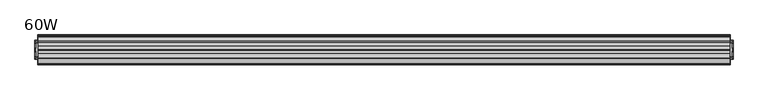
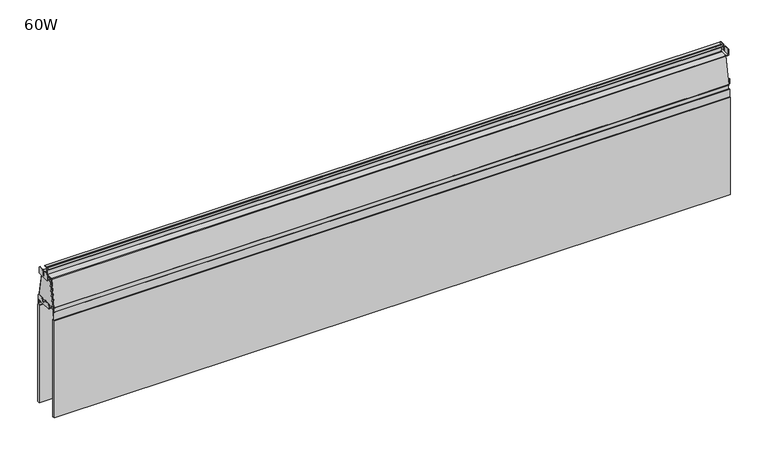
"""IFC4 building model written with IfcOpenShell, lengths in millimetres: furniture geometry, Steelcase Turnstone - Bivi - Accessories - High Sit Bracket with Modesty Panel : 60W."""

from ifc_helpers import new_model, si_unit, point, frame, frame_2d, origin, place, context, project, spatial, polyline, circle_curve, trimmed, segment, composite_curve, outline, extrude, source, transform, mapped, element, save
from ifc_brep_helpers import plane_surface, cylinder_surface, revolved_surface, advanced_brep


def furniture_60w_9ca0c22e(model_context):
    return source(origin(), model_context, "Body", "SolidModel", [
        extrude(outline(polyline([(1476.756, -62.4245382), (1481.1753142, -62.4245382), (1481.1753142, -102.4290731), (1476.756, -102.4290731), (1476.756, -62.4245382)])), frame((0.0, 0.0, 971.7621964), z_axis=(0.0, 0.0, 1.0), x_axis=(1.0, 0.0, 0.0)), (0.0, 0.0, 1.0), 2.2606178),
        extrude(outline(polyline([(1476.756, -67.9265279), (1481.1753142, -67.9265279), (1481.1753142, -96.8235489), (1476.756, -96.8235489), (1476.756, -67.9265279)])), frame((0.0, 0.0, 1033.6165755), z_axis=(0.0, 0.0, 1.0), x_axis=(1.0, 0.0, 0.0)), (0.0, 0.0, 1.0), 1.7477706),
        extrude(outline(composite_curve([segment(polyline([(-67.9265279, 1033.6165755), (-96.9270833, 1033.6165755), (-96.9270833, 1047.2712029)]), True, "CONTINUOUS"), segment(trimmed(circle_curve(frame_2d((-95.8530462, 1047.2712029)), 1.0740372), [point((-96.9270833, 1047.2712029))], [point((-95.8530462, 1048.3452401))], False, "CARTESIAN"), True, "CONTINUOUS"), segment(polyline([(-95.8530462, 1048.3452401), (-86.5848166, 1048.3452401)]), True, "CONTINUOUS"), segment(trimmed(circle_curve(frame_2d((-86.5848166, 1047.1882087)), 1.1570313), [point((-86.5848166, 1048.3452401))], [point((-85.4277852, 1047.1882087))], False, "CARTESIAN"), True, "CONTINUOUS"), segment(polyline([(-85.4277852, 1047.1882087), (-85.4277852, 1035.3644915), (-79.443513, 1035.3644915), (-79.443513, 1047.1627838)]), True, "CONTINUOUS"), segment(trimmed(circle_curve(frame_2d((-78.2610567, 1047.1627838)), 1.1824563), [point((-79.443513, 1047.1627838))], [point((-78.2610567, 1048.3452401))], False, "CARTESIAN"), True, "CONTINUOUS"), segment(polyline([(-78.2610567, 1048.3452401), (-68.8135699, 1048.3452401)]), True, "CONTINUOUS"), segment(trimmed(circle_curve(frame_2d((-68.8135699, 1047.4581981)), 0.887042), [point((-68.8135699, 1048.3452401))], [point((-67.9265279, 1047.4581981))], False, "CARTESIAN"), True, "CONTINUOUS"), segment(polyline([(-67.9265279, 1047.4581981), (-67.9265279, 1033.6165755)]), True, "CONTINUOUS")], self_intersect=False)), frame((1481.1753142, 0.0, 0.0), z_axis=(1.0, 0.0, 0.0), x_axis=(0.0, 1.0, 0.0)), (0.0, 0.0, 1.0), 1.4999084),
        extrude(outline(composite_curve([segment(polyline([(-76.0547241, 981.8412323), (-64.233104, 981.8412323)]), True, "CONTINUOUS"), segment(trimmed(circle_curve(frame_2d((-64.233104, 980.0326664)), 1.8085659), [point((-64.233104, 981.8412323))], [point((-62.4245382, 980.0326664))], False, "CARTESIAN"), True, "CONTINUOUS"), segment(polyline([(-62.4245382, 980.0326664), (-62.4245382, 971.7621964), (-82.4398102, 971.7621964), (-102.4290731, 971.7621964), (-102.4290731, 979.8046996)]), True, "CONTINUOUS"), segment(trimmed(circle_curve(frame_2d((-100.3925404, 979.8046996)), 2.0365327), [point((-102.4290731, 979.8046996))], [point((-100.3925404, 981.8412323))], False, "CARTESIAN"), True, "CONTINUOUS"), segment(polyline([(-100.3925404, 981.8412323), (-88.6513232, 981.8412323)]), True, "CONTINUOUS"), segment(trimmed(circle_curve(frame_2d((-88.6513232, 980.0617922)), 1.7794401), [point((-88.6513232, 981.8412323))], [point((-86.8718831, 980.0617922))], False, "CARTESIAN"), True, "CONTINUOUS"), segment(polyline([(-86.8718831, 980.0617922), (-86.8718831, 974.7655741), (-77.9817281, 974.7655741), (-77.9817281, 979.9142284)]), True, "CONTINUOUS"), segment(trimmed(circle_curve(frame_2d((-76.0547241, 979.9142284)), 1.9270039), [point((-77.9817281, 979.9142284))], [point((-76.0547241, 981.8412323))], False, "CARTESIAN"), True, "CONTINUOUS")], self_intersect=False)), frame((1481.1753142, 0.0, 0.0), z_axis=(1.0, 0.0, 0.0), x_axis=(0.0, 1.0, 0.0)), (0.0, 0.0, 1.0), 1.4999084),
        extrude(outline(polyline([(0.0, -62.4245382), (0.0, -102.4290731), (-4.4193142, -102.4290731), (-4.4193142, -62.4245382), (0.0, -62.4245382)])), frame((0.0, 0.0, 971.7621964), z_axis=(0.0, 0.0, 1.0), x_axis=(1.0, 0.0, 0.0)), (0.0, 0.0, 1.0), 2.2606178),
        extrude(outline(polyline([(0.0, -67.9265279), (0.0, -96.8235489), (-4.4193142, -96.8235489), (-4.4193142, -67.9265279), (0.0, -67.9265279)])), frame((0.0, 0.0, 1033.6165755), z_axis=(0.0, 0.0, 1.0), x_axis=(1.0, 0.0, 0.0)), (0.0, 0.0, 1.0), 1.7477706),
        extrude(outline(composite_curve([segment(polyline([(-67.9265279, 1033.6165755), (-96.9270833, 1033.6165755), (-96.9270833, 1047.2712029)]), True, "CONTINUOUS"), segment(trimmed(circle_curve(frame_2d((-95.8530462, 1047.2712029)), 1.0740372), [point((-96.9270833, 1047.2712029))], [point((-95.8530462, 1048.3452401))], False, "CARTESIAN"), True, "CONTINUOUS"), segment(polyline([(-95.8530462, 1048.3452401), (-86.5848166, 1048.3452401)]), True, "CONTINUOUS"), segment(trimmed(circle_curve(frame_2d((-86.5848166, 1047.1882087)), 1.1570313), [point((-86.5848166, 1048.3452401))], [point((-85.4277852, 1047.1882087))], False, "CARTESIAN"), True, "CONTINUOUS"), segment(polyline([(-85.4277852, 1047.1882087), (-85.4277852, 1035.3644915), (-79.443513, 1035.3644915), (-79.443513, 1047.1627838)]), True, "CONTINUOUS"), segment(trimmed(circle_curve(frame_2d((-78.2610567, 1047.1627838)), 1.1824563), [point((-79.443513, 1047.1627838))], [point((-78.2610567, 1048.3452401))], False, "CARTESIAN"), True, "CONTINUOUS"), segment(polyline([(-78.2610567, 1048.3452401), (-68.8135699, 1048.3452401)]), True, "CONTINUOUS"), segment(trimmed(circle_curve(frame_2d((-68.8135699, 1047.4581981)), 0.887042), [point((-68.8135699, 1048.3452401))], [point((-67.9265279, 1047.4581981))], False, "CARTESIAN"), True, "CONTINUOUS"), segment(polyline([(-67.9265279, 1047.4581981), (-67.9265279, 1033.6165755)]), True, "CONTINUOUS")], self_intersect=False)), frame((-5.9192227, 0.0, 0.0), z_axis=(1.0, 0.0, 0.0), x_axis=(0.0, 1.0, 0.0)), (0.0, 0.0, 1.0), 1.4999084),
        extrude(outline(composite_curve([segment(polyline([(-76.0547241, 981.8412323), (-64.233104, 981.8412323)]), True, "CONTINUOUS"), segment(trimmed(circle_curve(frame_2d((-64.233104, 980.0326664)), 1.8085659), [point((-64.233104, 981.8412323))], [point((-62.4245382, 980.0326664))], False, "CARTESIAN"), True, "CONTINUOUS"), segment(polyline([(-62.4245382, 980.0326664), (-62.4245382, 971.7621964), (-82.4398102, 971.7621964), (-102.4290731, 971.7621964), (-102.4290731, 979.8046996)]), True, "CONTINUOUS"), segment(trimmed(circle_curve(frame_2d((-100.3925404, 979.8046996)), 2.0365327), [point((-102.4290731, 979.8046996))], [point((-100.3925404, 981.8412323))], False, "CARTESIAN"), True, "CONTINUOUS"), segment(polyline([(-100.3925404, 981.8412323), (-88.6513232, 981.8412323)]), True, "CONTINUOUS"), segment(trimmed(circle_curve(frame_2d((-88.6513232, 980.0617922)), 1.7794401), [point((-88.6513232, 981.8412323))], [point((-86.8718831, 980.0617922))], False, "CARTESIAN"), True, "CONTINUOUS"), segment(polyline([(-86.8718831, 980.0617922), (-86.8718831, 974.7655741), (-77.9817281, 974.7655741), (-77.9817281, 979.9142284)]), True, "CONTINUOUS"), segment(trimmed(circle_curve(frame_2d((-76.0547241, 979.9142284)), 1.9270039), [point((-77.9817281, 979.9142284))], [point((-76.0547241, 981.8412323))], False, "CARTESIAN"), True, "CONTINUOUS")], self_intersect=False)), frame((-5.9192227, 0.0, 0.0), z_axis=(1.0, 0.0, 0.0), x_axis=(0.0, 1.0, 0.0)), (0.0, 0.0, 1.0), 1.4999084),
        extrude(outline(polyline([(-56.9970023, 971.7621964), (-107.8605404, 971.7621964), (-96.5348092, 1035.3644915), (-68.2124562, 1035.3644915), (-56.9970023, 971.7621964)])), frame((1475.1043308, 0.0, 0.0), z_axis=(1.0, 0.0, 0.0), x_axis=(0.0, 1.0, 0.0)), (0.0, 0.0, 1.0), 1.6516692),
        extrude(outline(polyline([(-56.9970023, 971.7621964), (-107.8605404, 971.7621964), (-96.5348351, 1035.3643461), (-68.2124305, 1035.3643461), (-56.9970023, 971.7621964)])), frame((0.0, 0.0, 0.0), z_axis=(1.0, 0.0, 0.0), x_axis=(0.0, 1.0, 0.0)), (0.0, 0.0, 1.0), 1.6516692),
        advanced_brep(
        [(1475.1043308, -80.9976272, 1037.2195381), (1475.1043308, -81.5241475, 1037.7460584), (1475.1043308, -81.5241475, 1051.4672481), (1475.1043308, -81.0144007, 1051.9769949), (1475.1043308, -74.8842427, 1051.9769949), (1475.1043308, -74.8842427, 1052.8659668), (1475.1043308, -81.2494337, 1052.8659668), (1475.1043308, -82.4700881, 1051.6453124), (1475.1043308, -83.7221189, 1052.8659668), (1475.1043308, -90.0377005, 1052.8659668), (1475.1043308, -90.0377005, 1051.9769949), (1475.1043308, -83.9075425, 1051.9769949), (1475.1043308, -83.3977957, 1051.4672481), (1475.1043308, -83.3977957, 1037.7460584), (1475.1043308, -83.924316, 1037.2195381), (1475.1043308, -99.0759081, 1037.2195381), (1475.1043308, -100.326089, 1036.1705117), (1475.1043308, -110.7579884, 977.0082706), (1475.1043308, -109.096108, 975.5931057), (1475.1043308, -109.096108, 956.4729406), (1475.1043308, -107.5729451, 956.4729406), (1475.1043308, -107.5729451, 975.5229406), (1475.1043308, -57.2806661, 975.5229406), (1475.1043308, -57.2806661, 956.4729406), (1475.1043308, -55.7575032, 956.4729406), (1475.1043308, -55.7575032, 975.5715007), (1475.1043308, -54.1639548, 977.0082706), (1475.1043308, -64.5958542, 1036.1705117), (1475.1043308, -65.8460351, 1037.2195381), (1475.1043308, -66.0050637, 1036.3263319), (1475.1043308, -65.4476181, 1035.8585795), (1475.1043308, -55.0642662, 976.9716646), (1475.1043308, -55.5332832, 976.4127119), (1475.1043308, -109.38866, 976.4127119), (1475.1043308, -109.857677, 976.9716646), (1475.1043308, -99.4743251, 1035.8585795), (1475.1043308, -98.9168795, 1036.3263319), (1475.1043308, -83.6744208, 1036.3263319), (1475.1043308, -82.5014645, 1037.4992882), (1475.1043308, -81.2971318, 1036.3263319), (1.6516692, -80.9976272, 1037.2195381), (1.6516692, -65.8460351, 1037.2195381), (1.6516692, -64.5958542, 1036.1705117), (1.6516692, -54.1639548, 977.0082706), (1.6516692, -55.7575032, 975.5715007), (1.6516692, -55.7575032, 956.4729406), (1.6516692, -57.2806661, 956.4729406), (1.6516692, -57.2806661, 975.5229406), (1.6516692, -107.5729451, 975.5229406), (1.6516692, -107.5729451, 956.4729406), (1.6516692, -109.096108, 956.4729406), (1.6516692, -109.096108, 975.5931057), (1.6516692, -110.7579884, 977.0082706), (1.6516692, -100.326089, 1036.1705117), (1.6516692, -99.0759081, 1037.2195381), (1.6516692, -83.924316, 1037.2195381), (1.6516692, -83.3977957, 1037.7460584), (1.6516692, -83.3977957, 1051.4672481), (1.6516692, -83.9075425, 1051.9769949), (1.6516692, -90.0377005, 1051.9769949), (1.6516692, -90.0377005, 1052.8659668), (1.6516692, -83.7221189, 1052.8659668), (1.6516692, -82.5014645, 1051.6453124), (1.6516692, -81.2494337, 1052.8659668), (1.6516692, -74.8842427, 1052.8659668), (1.6516692, -74.8842427, 1051.9769949), (1.6516692, -81.0144007, 1051.9769949), (1.6516692, -81.5241475, 1051.4672481), (1.6516692, -81.5241475, 1037.7460584), (1.6516692, -66.0050637, 1036.3263319), (1.6516692, -81.2971318, 1036.3263319), (1.6516692, -82.4700881, 1037.4992882), (1.6516692, -83.6744208, 1036.3263319), (1.6516692, -98.9168795, 1036.3263319), (1.6516692, -99.4743251, 1035.8585795), (1.6516692, -109.857677, 976.9716646), (1.6516692, -109.38866, 976.4127119), (1.6516692, -55.5332832, 976.4127119), (1.6516692, -55.0642662, 976.9716646), (1.6516692, -65.4476181, 1035.8585795)],
        [
            (0, 1, circle_curve(frame((1475.1043308, -80.9976272, 1037.7460584), z_axis=(-1.0, 0.0, 0.0), x_axis=(0.0, 1.0, 0.0)), 0.5265203)),
            (1, 2),
            (2, 3, circle_curve(frame((1475.1043308, -81.0144007, 1051.4672481), z_axis=(-1.0, 0.0, 0.0), x_axis=(0.0, 1.0, 0.0)), 0.5097468)),
            (3, 4),
            (4, 5),
            (5, 6),
            (6, 7, circle_curve(frame((1475.1043308, -81.2494337, 1051.6453124), z_axis=(1.0, 0.0, 0.0), x_axis=(0.0, 1.0, 0.0)), 1.2206544)),
            (7, 8, circle_curve(frame((1475.1043308, -83.7221189, 1051.6453124), z_axis=(1.0, 0.0, 0.0), x_axis=(0.0, 1.0, 0.0)), 1.2206544)),
            (8, 9),
            (9, 10),
            (10, 11),
            (11, 12, circle_curve(frame((1475.1043308, -83.9075425, 1051.4672481), z_axis=(-1.0, 0.0, 0.0), x_axis=(0.0, 1.0, 0.0)), 0.5097468)),
            (12, 13),
            (13, 14, circle_curve(frame((1475.1043308, -83.924316, 1037.7460584), z_axis=(-1.0, 0.0, 0.0), x_axis=(0.0, 1.0, 0.0)), 0.5265203)),
            (14, 15),
            (15, 16, circle_curve(frame((1475.1043308, -99.0759081, 1035.9500711), z_axis=(1.0, 0.0, 0.0), x_axis=(0.0, 1.0, 0.0)), 1.269467)),
            (16, 17),
            (17, 18, circle_curve(frame((1475.1043308, -109.5116486, 976.7885072), z_axis=(1.0, 0.0, 0.0), x_axis=(0.0, 1.0, 0.0)), 1.2655666)),
            (18, 19),
            (19, 20),
            (20, 21),
            (21, 22),
            (22, 23),
            (23, 24),
            (24, 25),
            (25, 26, circle_curve(frame((1475.1043308, -55.4102946, 976.7885072), z_axis=(1.0, 0.0, 0.0), x_axis=(0.0, 1.0, 0.0)), 1.2655666)),
            (26, 27),
            (27, 28, circle_curve(frame((1475.1043308, -65.8460351, 1035.9500711), z_axis=(1.0, 0.0, 0.0), x_axis=(0.0, 1.0, 0.0)), 1.269467)),
            (28, 0),
            (29, 30, circle_curve(frame((1475.1043308, -66.0050637, 1035.7602868), z_axis=(-1.0, 0.0, 0.0), x_axis=(0.0, 1.0, 0.0)), 0.5660451)),
            (30, 31),
            (31, 32, circle_curve(frame((1475.1043308, -55.5332832, 976.8889643), z_axis=(-1.0, 0.0, 0.0), x_axis=(0.0, 1.0, 0.0)), 0.4762524)),
            (32, 33),
            (33, 34, circle_curve(frame((1475.1043308, -109.38866, 976.8889643), z_axis=(-1.0, 0.0, 0.0), x_axis=(0.0, 1.0, 0.0)), 0.4762524)),
            (34, 35),
            (35, 36, circle_curve(frame((1475.1043308, -98.9168795, 1035.7602868), z_axis=(-1.0, 0.0, 0.0), x_axis=(0.0, 1.0, 0.0)), 0.5660451)),
            (36, 37),
            (37, 38, circle_curve(frame((1475.1043308, -83.6744208, 1037.4992882), z_axis=(1.0, 0.0, 0.0), x_axis=(0.0, 1.0, 0.0)), 1.1729562)),
            (38, 39, circle_curve(frame((1475.1043308, -81.2971318, 1037.4992882), z_axis=(1.0, 0.0, 0.0), x_axis=(0.0, 1.0, 0.0)), 1.1729562)),
            (39, 29),
            (40, 41),
            (41, 42, circle_curve(frame((1.6516692, -65.8460351, 1035.9500711), z_axis=(-1.0, 0.0, 0.0), x_axis=(0.0, 1.0, 0.0)), 1.269467)),
            (42, 43),
            (43, 44, circle_curve(frame((1.6516692, -55.4102946, 976.7885072), z_axis=(-1.0, 0.0, 0.0), x_axis=(0.0, 1.0, 0.0)), 1.2655666)),
            (44, 45),
            (45, 46),
            (46, 47),
            (47, 48),
            (48, 49),
            (49, 50),
            (50, 51),
            (51, 52, circle_curve(frame((1.6516692, -109.5116486, 976.7885072), z_axis=(-1.0, 0.0, 0.0), x_axis=(0.0, 1.0, 0.0)), 1.2655666)),
            (52, 53),
            (53, 54, circle_curve(frame((1.6516692, -99.0759081, 1035.9500711), z_axis=(-1.0, 0.0, 0.0), x_axis=(0.0, 1.0, 0.0)), 1.269467)),
            (54, 55),
            (55, 56, circle_curve(frame((1.6516692, -83.924316, 1037.7460584), z_axis=(1.0, 0.0, 0.0), x_axis=(0.0, 1.0, 0.0)), 0.5265203)),
            (56, 57),
            (57, 58, circle_curve(frame((1.6516692, -83.9075425, 1051.4672481), z_axis=(1.0, 0.0, 0.0), x_axis=(0.0, 1.0, 0.0)), 0.5097468)),
            (58, 59),
            (59, 60),
            (60, 61),
            (61, 62, circle_curve(frame((1.6516692, -83.7221189, 1051.6453124), z_axis=(-1.0, 0.0, 0.0), x_axis=(0.0, 1.0, 0.0)), 1.2206544)),
            (62, 63, circle_curve(frame((1.6516692, -81.2494337, 1051.6453124), z_axis=(-1.0, 0.0, 0.0), x_axis=(0.0, 1.0, 0.0)), 1.2206544)),
            (63, 64),
            (64, 65),
            (65, 66),
            (66, 67, circle_curve(frame((1.6516692, -81.0144007, 1051.4672481), z_axis=(1.0, 0.0, 0.0), x_axis=(0.0, 1.0, 0.0)), 0.5097468)),
            (67, 68),
            (68, 40, circle_curve(frame((1.6516692, -80.9976272, 1037.7460584), z_axis=(1.0, 0.0, 0.0), x_axis=(0.0, 1.0, 0.0)), 0.5265203)),
            (69, 70),
            (70, 71, circle_curve(frame((1.6516692, -81.2971318, 1037.4992882), z_axis=(-1.0, 0.0, 0.0), x_axis=(0.0, 1.0, 0.0)), 1.1729562)),
            (71, 72, circle_curve(frame((1.6516692, -83.6744208, 1037.4992882), z_axis=(-1.0, 0.0, 0.0), x_axis=(0.0, 1.0, 0.0)), 1.1729562)),
            (72, 73),
            (73, 74, circle_curve(frame((1.6516692, -98.9168795, 1035.7602868), z_axis=(1.0, 0.0, 0.0), x_axis=(0.0, 1.0, 0.0)), 0.5660451)),
            (74, 75),
            (75, 76, circle_curve(frame((1.6516692, -109.38866, 976.8889643), z_axis=(1.0, 0.0, 0.0), x_axis=(0.0, 1.0, 0.0)), 0.4762524)),
            (76, 77),
            (77, 78, circle_curve(frame((1.6516692, -55.5332832, 976.8889643), z_axis=(1.0, 0.0, 0.0), x_axis=(0.0, 1.0, 0.0)), 0.4762524)),
            (78, 79),
            (79, 69, circle_curve(frame((1.6516692, -66.0050637, 1035.7602868), z_axis=(1.0, 0.0, 0.0), x_axis=(0.0, 1.0, 0.0)), 0.5660451)),
            (0, 40),
            (68, 1),
            (67, 2),
            (66, 3),
            (65, 4),
            (64, 5),
            (63, 6),
            (62, 7),
            (61, 8),
            (60, 9),
            (59, 10),
            (58, 11),
            (57, 12),
            (56, 13),
            (55, 14),
            (54, 15),
            (53, 16),
            (52, 17),
            (51, 18),
            (50, 19),
            (49, 20),
            (48, 21),
            (47, 22),
            (46, 23),
            (45, 24),
            (44, 25),
            (43, 26),
            (42, 27),
            (41, 28),
            (29, 69),
            (79, 30),
            (78, 31),
            (77, 32),
            (76, 33),
            (75, 34),
            (74, 35),
            (73, 36),
            (72, 37),
            (71, 38),
            (70, 39),
        ],
        [
            plane_surface(frame((1475.1043308, -80.4711069, 1037.7460584), z_axis=(1.0, 0.0, 0.0), x_axis=(0.0, 0.0, -1.0))),
            plane_surface(frame((1.6516692, -80.4711069, 1037.7460584), z_axis=(-1.0, 0.0, 0.0), x_axis=(0.0, 0.0, 1.0))),
            revolved_surface(polyline([(1.6516692, -80.4711069, 1037.7460584), (1475.1043308, -80.4711069, 1037.7460584)]), (1.6516692, -80.9976272, 1037.7460584), (-1.0, 0.0, 0.0)),
            plane_surface(frame((1475.1043308, -81.5241475, 1037.7460584), z_axis=(0.0, 1.0, 0.0), x_axis=(-1.0, 0.0, 0.0))),
            revolved_surface(polyline([(1.6516692, -80.5046539, 1051.4672481), (1475.1043308, -80.5046539, 1051.4672481)]), (1.6516692, -81.0144007, 1051.4672481), (-1.0, 0.0, 0.0)),
            plane_surface(frame((1475.1043308, -81.0144007, 1051.9769949), z_axis=(0.0, 0.0, -1.0), x_axis=(-1.0, 0.0, 0.0))),
            plane_surface(frame((1475.1043308, -74.8842427, 1051.9769949), z_axis=(0.0, 1.0, 0.0), x_axis=(-1.0, 0.0, 0.0))),
            plane_surface(frame((1475.1043308, -74.8842427, 1052.8659668), z_axis=(0.0, 0.0, 1.0), x_axis=(-1.0, 0.0, 0.0))),
            cylinder_surface(frame((1.6516692, -81.2494337, 1051.6453124), z_axis=(1.0, 0.0, 0.0), x_axis=(0.0, 1.0, 0.0)), 1.2206544),
            cylinder_surface(frame((1.6516692, -83.7221189, 1051.6453124), z_axis=(1.0, 0.0, 0.0), x_axis=(0.0, 1.0, 0.0)), 1.2206544),
            plane_surface(frame((1475.1043308, -83.7221189, 1052.8659668), z_axis=(0.0, 0.0, 1.0), x_axis=(-1.0, 0.0, 0.0))),
            plane_surface(frame((1475.1043308, -90.0377005, 1052.8659668), z_axis=(0.0, -1.0, 0.0), x_axis=(-1.0, 0.0, 0.0))),
            plane_surface(frame((1475.1043308, -90.0377005, 1051.9769949), z_axis=(0.0, 0.0, -1.0), x_axis=(-1.0, 0.0, 0.0))),
            revolved_surface(polyline([(1.6516692, -83.3977957, 1051.4672481), (1475.1043308, -83.3977957, 1051.4672481)]), (1.6516692, -83.9075425, 1051.4672481), (-1.0, 0.0, 0.0)),
            plane_surface(frame((1475.1043308, -83.3977957, 1051.4672481), z_axis=(0.0, -1.0, 0.0), x_axis=(-1.0, 0.0, 0.0))),
            revolved_surface(polyline([(1.6516692, -83.3977957, 1037.7460584), (1475.1043308, -83.3977957, 1037.7460584)]), (1.6516692, -83.924316, 1037.7460584), (-1.0, 0.0, 0.0)),
            plane_surface(frame((1475.1043308, -83.924316, 1037.2195381), z_axis=(0.0, 0.0, 1.0), x_axis=(-1.0, 0.0, 0.0))),
            cylinder_surface(frame((1.6516692, -99.0759081, 1035.9500711), z_axis=(1.0, 0.0, 0.0), x_axis=(0.0, 1.0, 0.0)), 1.269467),
            plane_surface(frame((1475.1043308, -100.326089, 1036.1705117), z_axis=(0.0, -0.9848077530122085, 0.17364817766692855), x_axis=(-1.0, 0.0, 0.0))),
            cylinder_surface(frame((1.6516692, -109.5116486, 976.7885072), z_axis=(1.0, 0.0, 0.0), x_axis=(0.0, 1.0, 0.0)), 1.2655666),
            plane_surface(frame((1475.1043308, -109.096108, 975.5931057), z_axis=(0.0, -1.0, 0.0), x_axis=(-1.0, 0.0, 0.0))),
            plane_surface(frame((1475.1043308, -109.096108, 956.4729406), z_axis=(0.0, 0.0, -1.0), x_axis=(-1.0, 0.0, 0.0))),
            plane_surface(frame((1475.1043308, -107.5729451, 956.4729406), z_axis=(0.0, 1.0, 0.0), x_axis=(-1.0, 0.0, 0.0))),
            plane_surface(frame((1475.1043308, -107.5729451, 975.5229406), z_axis=(0.0, 0.0, -1.0), x_axis=(-1.0, 0.0, 0.0))),
            plane_surface(frame((1475.1043308, -57.2806661, 975.5229406), z_axis=(0.0, -1.0, 0.0), x_axis=(-1.0, 0.0, 0.0))),
            plane_surface(frame((1475.1043308, -57.2806661, 956.4729406), z_axis=(0.0, 0.0, -1.0), x_axis=(-1.0, 0.0, 0.0))),
            plane_surface(frame((1475.1043308, -55.7575032, 956.4729406), z_axis=(0.0, 1.0, 0.0), x_axis=(-1.0, 0.0, 0.0))),
            cylinder_surface(frame((1.6516692, -55.4102946, 976.7885072), z_axis=(1.0, 0.0, 0.0), x_axis=(0.0, 1.0, 0.0)), 1.2655666),
            plane_surface(frame((1475.1043308, -54.1639548, 977.0082706), z_axis=(0.0, 0.9848077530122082, 0.17364817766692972), x_axis=(-1.0, 0.0, 0.0))),
            cylinder_surface(frame((1.6516692, -65.8460351, 1035.9500711), z_axis=(1.0, 0.0, 0.0), x_axis=(0.0, 1.0, 0.0)), 1.269467),
            plane_surface(frame((1475.1043308, -65.8460351, 1037.2195381), z_axis=(0.0, 0.0, 1.0), x_axis=(-1.0, 0.0, 0.0))),
            revolved_surface(polyline([(1.6516692, -65.4390186, 1035.7602868), (1475.1043308, -65.4390186, 1035.7602868)]), (0.0, -66.0050637, 1035.7602868), (-1.0, 0.0, 0.0)),
            plane_surface(frame((1475.1043308, -65.4476181, 1035.8585795), z_axis=(0.0, -0.9848077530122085, -0.17364817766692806), x_axis=(-1.0, 0.0, 0.0))),
            revolved_surface(polyline([(1.6516692, -55.0570308, 976.8889643), (1475.1043308, -55.0570308, 976.8889643)]), (0.0, -55.5332832, 976.8889643), (-1.0, 0.0, 0.0)),
            plane_surface(frame((1475.1043308, -55.5332832, 976.4127119), z_axis=(0.0, 0.0, 1.0), x_axis=(-1.0, 0.0, 0.0))),
            revolved_surface(polyline([(1.6516692, -108.9124076, 976.8889643), (1475.1043308, -108.9124076, 976.8889643)]), (0.0, -109.38866, 976.8889643), (-1.0, 0.0, 0.0)),
            plane_surface(frame((1475.1043308, -109.857677, 976.9716646), z_axis=(0.0, 0.9848077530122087, -0.17364817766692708), x_axis=(-1.0, 0.0, 0.0))),
            revolved_surface(polyline([(1.6516692, -98.3508344, 1035.7602868), (1475.1043308, -98.3508344, 1035.7602868)]), (0.0, -98.9168795, 1035.7602868), (-1.0, 0.0, 0.0)),
            plane_surface(frame((1475.1043308, -98.9168795, 1036.3263319), z_axis=(0.0, 0.0, -1.0), x_axis=(-1.0, 0.0, 0.0))),
            cylinder_surface(frame((0.0, -83.6744208, 1037.4992882), z_axis=(1.0, 0.0, 0.0), x_axis=(0.0, 1.0, 0.0)), 1.1729562),
            cylinder_surface(frame((0.0, -81.2971318, 1037.4992882), z_axis=(1.0, 0.0, 0.0), x_axis=(0.0, 1.0, 0.0)), 1.1729562),
            plane_surface(frame((1475.1043308, -81.2971318, 1036.3263319), z_axis=(0.0, 0.0, -1.0), x_axis=(-1.0, 0.0, 0.0))),
        ],
        [
            (0, [[1, 2, 3, 4, 5, 6, 7, 8, 9, 10, 11, 12, 13, 14, 15, 16, 17, 18, 19, 20, 21, 22, 23, 24, 25, 26, 27, 28, 29], [30, 31, 32, 33, 34, 35, 36, 37, 38, 39, 40]]),
            (1, [[41, 42, 43, 44, 45, 46, 47, 48, 49, 50, 51, 52, 53, 54, 55, 56, 57, 58, 59, 60, 61, 62, 63, 64, 65, 66, 67, 68, 69], [70, 71, 72, 73, 74, 75, 76, 77, 78, 79, 80]]),
            (2, [[-1, 81, -69, 82]]),
            (3, [[-2, -82, -68, 83]]),
            (4, [[-3, -83, -67, 84]]),
            (5, [[-4, -84, -66, 85]]),
            (6, [[-5, -85, -65, 86]]),
            (7, [[-6, -86, -64, 87]]),
            (8, [[-7, -87, -63, 88]]),
            (9, [[-8, -88, -62, 89]]),
            (10, [[-9, -89, -61, 90]]),
            (11, [[-10, -90, -60, 91]]),
            (12, [[-11, -91, -59, 92]]),
            (13, [[-12, -92, -58, 93]]),
            (14, [[-13, -93, -57, 94]]),
            (15, [[-14, -94, -56, 95]]),
            (16, [[-15, -95, -55, 96]]),
            (17, [[-16, -96, -54, 97]]),
            (18, [[-17, -97, -53, 98]]),
            (19, [[-18, -98, -52, 99]]),
            (20, [[-19, -99, -51, 100]]),
            (21, [[-20, -100, -50, 101]]),
            (22, [[-21, -101, -49, 102]]),
            (23, [[-22, -102, -48, 103]]),
            (24, [[-23, -103, -47, 104]]),
            (25, [[-24, -104, -46, 105]]),
            (26, [[-25, -105, -45, 106]]),
            (27, [[-26, -106, -44, 107]]),
            (28, [[-27, -107, -43, 108]]),
            (29, [[-28, -108, -42, 109]]),
            (30, [[-29, -109, -41, -81]]),
            (31, [[-30, 110, -80, 111]]),
            (32, [[-31, -111, -79, 112]]),
            (33, [[-32, -112, -78, 113]]),
            (34, [[-33, -113, -77, 114]]),
            (35, [[-34, -114, -76, 115]]),
            (36, [[-35, -115, -75, 116]]),
            (37, [[-36, -116, -74, 117]]),
            (38, [[-37, -117, -73, 118]]),
            (39, [[-38, -118, -72, 119]]),
            (40, [[-39, -119, -71, 120]]),
            (41, [[-40, -120, -70, -110]]),
        ],
    ),
        extrude(outline(polyline([(-54.1343465, 967.1858042), (-52.6693197, 967.1858042), (-52.6693197, 949.6150017), (-50.6089803, 949.6150017), (-50.6089803, 724.5711073), (-56.1923604, 724.5711073), (-56.1923604, 949.6150017), (-54.1343465, 949.6150017), (-54.1343465, 967.1858042)])), frame((0.0, 0.0, 0.0), z_axis=(1.0, 0.0, 0.0), x_axis=(0.0, 1.0, 0.0)), (0.0, 0.0, 1.0), 1476.756),
        extrude(outline(polyline([(-110.7215902, 967.1858042), (-110.7215902, 949.6150017), (-108.6635762, 949.6150017), (-108.6635762, 724.5711073), (-114.2469564, 724.5711073), (-114.2469564, 949.6150017), (-112.186617, 949.6150017), (-112.186617, 967.1858042), (-110.7215902, 967.1858042)])), frame((0.0, 0.0, 0.0), z_axis=(1.0, 0.0, 0.0), x_axis=(0.0, 1.0, 0.0)), (0.0, 0.0, 1.0), 1476.756),
    ])


if __name__ == "__main__":
    model = new_model("IFC4")
    model_context = context("Model", 3, world=origin())
    ifc_project = project(units=[si_unit("LENGTHUNIT", "METRE", prefix="MILLI")], contexts=[model_context])
    site = spatial("IfcSite", under=ifc_project)
    building = spatial("IfcBuilding", under=site)
    placement = place(None, origin())
    furniture_60w_shape = furniture_60w_9ca0c22e(model_context)
    element("IfcFurniture", 1, ObjectType="Steelcase Turnstone - Bivi - Accessories - High Sit Bracket with Modesty Panel : 60W", at=placement, inside=building, context=model_context, shape_type="MappedRepresentation", body=[
        mapped(furniture_60w_shape, transform((0.0, 0.0, 0.0), x_axis=(1.0, 0.0, 0.0), y_axis=(0.0, 1.0, 0.0), z_axis=(0.0, 0.0, 1.0))),
    ])
    save(model, "model.ifc")
